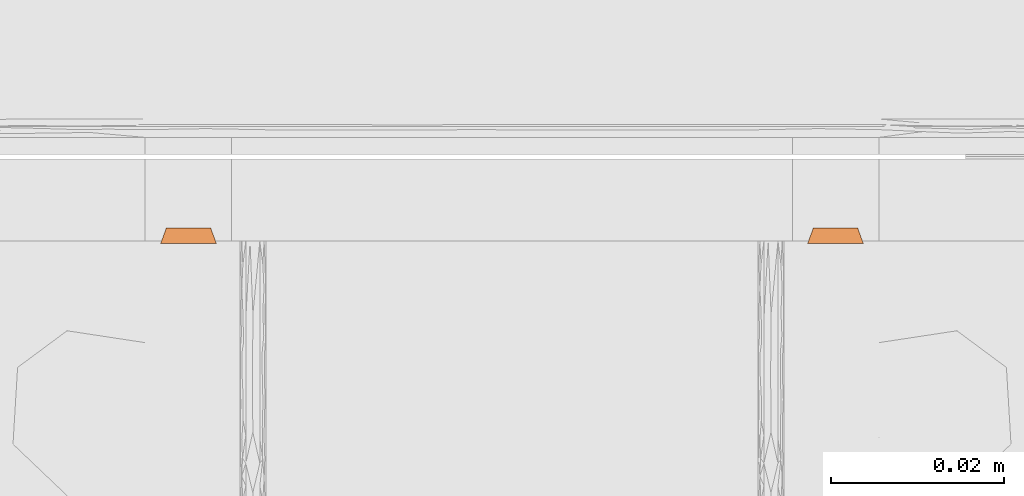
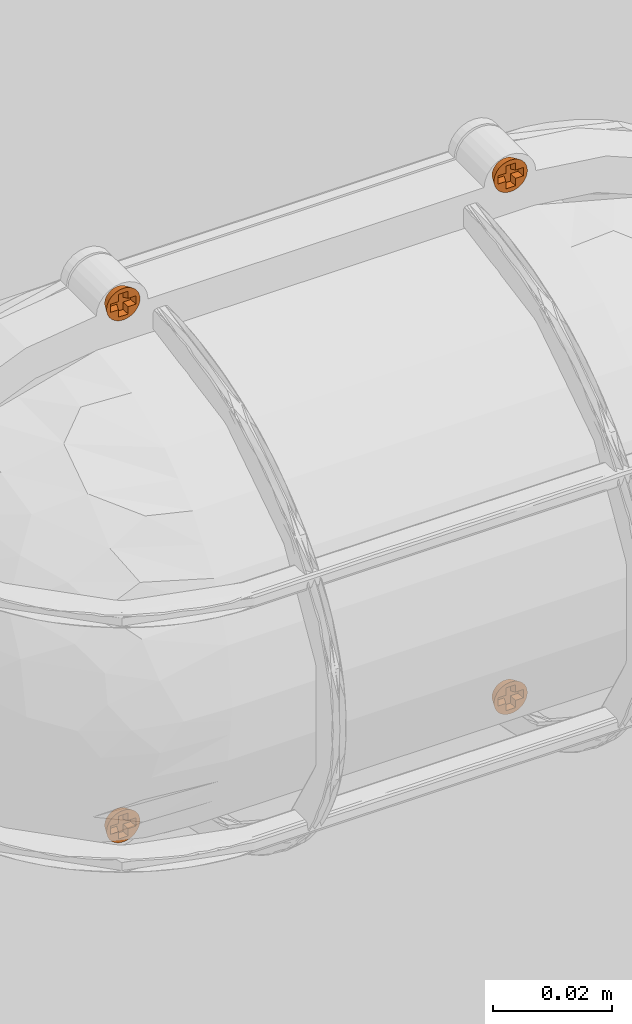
# One storey, part 2 of 2: 4 proxies.
"""IFC2X3 building model written with IfcOpenShell, lengths in metres."""

from ifc_helpers import new_model, si_unit, direction, frame, origin, place, context, subcontext, project, spatial, faceted_brep, source, transform, mapped, material, type_object, type_shapes, element, save


model = new_model("IFC2X3")

# Units and contexts
model_context = context("Model", 3, precision=1e-05, world=origin(), true_north=direction((6.123233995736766e-17, 1.0)))
body_context = subcontext(model_context, "Body", "Model", "MODEL_VIEW")
ifc_project = project(units=[si_unit("LENGTHUNIT", "METRE"), si_unit("AREAUNIT", "SQUARE_METRE")], contexts=[model_context])

# Site, building, storey
site_placement = place(None, origin())
site = spatial("IfcSite", under=ifc_project, at=site_placement, Name="Default", CompositionType="ELEMENT")
building_placement = place(site_placement, origin())
building = spatial("IfcBuilding", under=site, at=building_placement, CompositionType="ELEMENT")
storey_placement = place(building_placement, origin())
storey = spatial("IfcBuildingStorey", under=building, at=storey_placement, Name="Level 1", CompositionType="ELEMENT", Elevation=0.0)

# Proxies
ifc_material = material(Name="Raw Brass")
building_element_proxy_type_1 = type_object("IfcBuildingElementProxyType", Name="Screw:Screw", PredefinedType="NOTDEFINED", material=ifc_material)
shared_shape_1 = source(origin(), body_context, "Body", "Brep", [
    faceted_brep([(-0.003171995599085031, 0.0006309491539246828, 0.000316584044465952), (-0.0024394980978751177, 0.0008394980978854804, 0.0003165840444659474), (-0.0029879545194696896, 0.0012376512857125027, 0.0003165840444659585), (-0.0024394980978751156, 0.0, 0.0003165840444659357), (-0.0032341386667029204, 0.0, 0.00031658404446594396), (-0.0031719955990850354, -0.0006309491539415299, 0.00031658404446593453), (-0.0024394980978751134, -0.0008394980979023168, 0.0003165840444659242), (-0.002987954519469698, -0.00123765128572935, 0.00031658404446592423), (-0.0026890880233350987, -0.0017967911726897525, 0.00031658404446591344), (-0.0022868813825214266, -0.0022868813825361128, 0.00031658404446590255), (-0.000939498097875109, -0.0008394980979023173, 0.0003165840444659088), (-0.0009394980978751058, -0.0023394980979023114, 0.000316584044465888), (-0.0017967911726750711, -0.002689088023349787, 0.000316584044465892), (-0.001237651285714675, -0.0029879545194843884, 0.00031658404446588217), (-0.0006309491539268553, -0.003171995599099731, 0.00031658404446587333), (0.0, -0.0032341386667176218, 0.000316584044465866), (0.0009394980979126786, -0.002339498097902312, 0.0003165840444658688), (0.0006309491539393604, -0.003171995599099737, 0.0003165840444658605), (0.0012376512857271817, -0.0029879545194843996, 0.00031658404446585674), (0.001796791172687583, -0.0026890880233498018, 0.00031658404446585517), (0.0022868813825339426, -0.0022868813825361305, 0.0003165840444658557), (0.0009394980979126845, -0.0008394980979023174, 0.00031658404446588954), (0.0024415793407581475, -0.0008394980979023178, 0.00031658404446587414), (0.0026890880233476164, -0.0017967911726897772, 0.00031658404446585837), (0.002987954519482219, -0.0012376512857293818, 0.00031658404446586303), (0.0031719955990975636, -0.0006309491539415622, 0.00031658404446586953), (0.0024415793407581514, 0.0, 0.0003165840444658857), (0.0032341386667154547, 0.0, 0.00031658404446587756), (0.0031719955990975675, 0.0006309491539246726, 0.000316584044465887), (0.002441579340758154, 0.0008394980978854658, 0.00031658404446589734), (0.002987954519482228, 0.0012376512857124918, 0.0003165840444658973), (0.002689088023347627, 0.0017967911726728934, 0.000316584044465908), (0.002286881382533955, 0.00228688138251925, 0.000316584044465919), (0.0009394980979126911, 0.0008394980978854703, 0.00031658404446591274), (0.000939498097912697, 0.002325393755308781, 0.0003165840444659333), (0.0017967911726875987, 0.002689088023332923, 0.00031658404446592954), (0.0012376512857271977, 0.0029879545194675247, 0.00031658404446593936), (0.0006309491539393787, 0.0031719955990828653, 0.0003165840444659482), (0.0, 0.0032341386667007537, 0.0003165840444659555), (-0.0009394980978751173, 0.0023253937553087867, 0.00031658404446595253), (-0.0006309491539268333, 0.003171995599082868, 0.00031658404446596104), (-0.0012376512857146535, 0.002987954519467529, 0.0003165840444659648), (-0.0017967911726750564, 0.0026890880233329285, 0.00031658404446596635), (-0.0022868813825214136, 0.0022868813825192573, 0.0003165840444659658), (-0.0009394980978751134, 0.0008394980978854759, 0.000316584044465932), (-0.0026890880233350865, 0.0017967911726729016, 0.00031658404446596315), (0.0, 0.0, -0.001499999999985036), (-0.002572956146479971, 0.0, -0.0014999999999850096), (-0.0025235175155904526, 0.0005019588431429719, -0.0014999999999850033), (-0.002377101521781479, 0.0009846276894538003, -0.001499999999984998), (-0.0021393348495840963, 0.0014294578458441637, -0.0014999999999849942), (-0.0018193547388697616, 0.0018193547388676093, -0.0014999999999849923), (-0.0014294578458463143, 0.0021393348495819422, -0.0014999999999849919), (-0.0009846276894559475, 0.002377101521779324, -0.001499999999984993), (-0.0005019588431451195, 0.0025235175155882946, -0.0014999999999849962), (0.0, 0.002572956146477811, -0.0014999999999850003), (0.0005019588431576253, 0.0025235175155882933, -0.0014999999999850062), (0.0009846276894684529, 0.0023771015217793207, -0.0014999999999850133), (0.0014294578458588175, 0.002139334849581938, -0.0014999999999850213), (0.0018193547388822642, 0.0018193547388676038, -0.0014999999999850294), (0.0021393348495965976, 0.001429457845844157, -0.0014999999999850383), (0.00237710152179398, 0.0009846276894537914, -0.001499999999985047), (0.0025235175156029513, 0.0005019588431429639, -0.0014999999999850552), (0.0025729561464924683, 0.0, -0.0014999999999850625), (-0.0025235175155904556, -0.0005019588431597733, -0.001499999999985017), (-0.002377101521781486, -0.0009846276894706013, -0.0014999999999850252), (-0.0021393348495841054, -0.0014294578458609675, -0.001499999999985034), (-0.0018193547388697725, -0.0018193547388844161, -0.0014999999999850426), (-0.001429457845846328, -0.002139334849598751, -0.0014999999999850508), (-0.0009846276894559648, -0.002377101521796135, -0.0014999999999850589), (-0.0005019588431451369, -0.0025235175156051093, -0.001499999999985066), (0.0, -0.002572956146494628, -0.0014999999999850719), (0.002523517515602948, -0.0005019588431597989, -0.0014999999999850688), (0.002377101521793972, -0.0009846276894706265, -0.0014999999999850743), (0.002139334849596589, -0.0014294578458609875, -0.001499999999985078), (0.0018193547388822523, -0.001819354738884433, -0.0014999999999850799), (0.0014294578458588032, -0.0021393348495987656, -0.0014999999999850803), (0.0009846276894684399, -0.002377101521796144, -0.0014999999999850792), (0.0005019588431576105, -0.002523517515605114, -0.001499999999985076), (-0.0005999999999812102, -0.0005000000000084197, -0.0008462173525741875), (-0.0005999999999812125, -0.00200000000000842, -0.0008462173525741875), (0.0006000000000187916, -0.002000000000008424, -0.0008462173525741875), (0.0006000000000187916, -0.0005000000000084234, -0.0008462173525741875), (0.002102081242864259, -0.0005000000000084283, -0.0008462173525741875), (0.002102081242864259, 0.0004999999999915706, -0.0008462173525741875), (0.0006000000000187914, 0.0004999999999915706, -0.0008462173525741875), (0.0006000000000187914, 0.001985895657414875, -0.0008462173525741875), (-0.0005999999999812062, 0.001985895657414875, -0.0008462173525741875), (-0.0005999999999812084, 0.0004999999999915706, -0.0008462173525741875), (-0.0020999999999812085, 0.0004999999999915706, -0.0008462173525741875), (-0.00209999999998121, -0.0005000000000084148, -0.0008462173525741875)], [[[0, 1, 2]], [[3, 1, 0]], [[3, 0, 4]], [[3, 4, 5]], [[6, 3, 5]], [[6, 5, 7]], [[6, 7, 8]], [[9, 6, 8]], [[9, 10, 6]], [[10, 9, 11]], [[11, 9, 12]], [[13, 11, 12]], [[13, 14, 11]], [[11, 14, 15]], [[16, 11, 15]], [[15, 17, 16]], [[16, 17, 18]], [[19, 16, 18]], [[19, 20, 16]], [[16, 20, 21]], [[21, 20, 22]], [[20, 23, 22]], [[22, 23, 24]], [[24, 25, 22]], [[26, 22, 25]], [[27, 26, 25]], [[28, 26, 27]], [[29, 26, 28]], [[29, 28, 30]], [[31, 29, 30]], [[29, 31, 32]], [[32, 33, 29]], [[33, 32, 34]], [[32, 35, 34]], [[36, 34, 35]], [[37, 34, 36]], [[38, 34, 37]], [[38, 39, 34]], [[38, 40, 39]], [[41, 39, 40]], [[39, 41, 42]], [[43, 39, 42]], [[43, 1, 44]], [[43, 45, 1]], [[44, 39, 43]], [[2, 1, 45]], [[46, 47, 48]], [[48, 49, 46]], [[50, 46, 49]], [[51, 46, 50]], [[46, 51, 52]], [[52, 53, 46]], [[53, 54, 46]], [[54, 55, 46]], [[55, 56, 46]], [[57, 46, 56]], [[46, 57, 58]], [[58, 59, 46]], [[60, 46, 59]], [[61, 46, 60]], [[62, 46, 61]], [[62, 63, 46]], [[46, 64, 47]], [[46, 65, 64]], [[65, 46, 66]], [[67, 66, 46]], [[67, 46, 68]], [[69, 68, 46]], [[46, 70, 69]], [[46, 71, 70]], [[46, 63, 72]], [[73, 46, 72]], [[73, 74, 46]], [[75, 46, 74]], [[76, 46, 75]], [[46, 76, 77]], [[77, 78, 46]], [[71, 46, 78]], [[62, 28, 27, 63]], [[28, 62, 61, 30]], [[61, 60, 31, 30]], [[32, 59, 58, 35]], [[58, 57, 36, 35]], [[60, 59, 32, 31]], [[57, 56, 37, 36]], [[37, 56, 55, 38]], [[53, 41, 40, 54]], [[41, 53, 52, 42]], [[52, 51, 43, 42]], [[45, 50, 49, 2]], [[49, 48, 0, 2]], [[51, 50, 45, 43]], [[48, 47, 4, 0]], [[40, 38, 55, 54]], [[64, 5, 4, 47]], [[5, 64, 65, 7]], [[65, 66, 8, 7]], [[9, 67, 68, 12]], [[68, 69, 13, 12]], [[66, 67, 9, 8]], [[69, 70, 14, 13]], [[14, 70, 71, 15]], [[77, 18, 17, 78]], [[18, 77, 76, 19]], [[76, 75, 20, 19]], [[23, 74, 73, 24]], [[73, 72, 25, 24]], [[75, 74, 23, 20]], [[72, 63, 27, 25]], [[17, 15, 71, 78]], [[79, 80, 81, 82, 83, 84, 85, 86, 87, 88, 89, 90]], [[87, 86, 34, 39]], [[44, 88, 87, 39]], [[80, 79, 10, 11]], [[89, 88, 44, 1]], [[33, 85, 84, 29]], [[3, 6, 90, 89, 1]], [[10, 79, 90, 6]], [[83, 82, 21, 22]], [[16, 81, 80, 11]], [[21, 82, 81, 16]], [[86, 85, 33, 34]], [[26, 29, 84, 83, 22]]]),
])
type_shapes(building_element_proxy_type_1, [shared_shape_1])
for number, where, z_axis, x_axis, name in (
    (1, (-5.1288825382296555, 0.08865605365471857, 2.035865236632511), (0.0, -1.0, 0.0), (1.0, 0.0, 0.0), "Screw:Screw"),
    (2, (-5.053961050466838, 0.08865605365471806, 1.9291347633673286), (0.0, -1.0, 0.0), (-1.0, 0.0, 0.0), "Screw:Screw"),
):
    element("IfcBuildingElementProxy", number, at=place(storey_placement, frame(where, z_axis=z_axis, x_axis=x_axis)), inside=storey, type_object=building_element_proxy_type_1, material=ifc_material, Name=name, ObjectType="Screw:Screw", context=body_context, shape_type="MappedRepresentation", body=[
        mapped(shared_shape_1, transform((0.0, 0.0, 0.0), scale=1.0)),
    ])
building_element_proxy_type_2 = type_object("IfcBuildingElementProxyType", Name="Screw:Screw", PredefinedType="NOTDEFINED", material=ifc_material)
shared_shape_2 = source(origin(), body_context, "Body", "Brep", [
    faceted_brep([(-0.0029879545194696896, -0.0012376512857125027, 0.0003165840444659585), (-0.0024394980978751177, -0.0008394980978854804, 0.0003165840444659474), (-0.003171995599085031, -0.0006309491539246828, 0.000316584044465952), (-0.0026890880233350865, -0.0017967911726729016, 0.00031658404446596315), (-0.0022868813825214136, -0.0022868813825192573, 0.0003165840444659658), (-0.0009394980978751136, -0.0008394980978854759, 0.000316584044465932), (-0.0009394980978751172, -0.0023253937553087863, 0.00031658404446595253), (-0.0017967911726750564, -0.0026890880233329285, 0.00031658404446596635), (-0.001237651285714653, -0.0029879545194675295, 0.0003165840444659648), (-0.0006309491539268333, -0.003171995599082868, 0.00031658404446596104), (0.0, -0.0032341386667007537, 0.0003165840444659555), (0.0009394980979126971, -0.002325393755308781, 0.0003165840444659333), (0.0006309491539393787, -0.0031719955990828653, 0.0003165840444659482), (0.0012376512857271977, -0.0029879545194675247, 0.00031658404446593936), (0.0017967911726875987, -0.002689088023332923, 0.00031658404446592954), (0.002286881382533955, -0.00228688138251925, 0.000316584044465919), (0.0009394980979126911, -0.0008394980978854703, 0.00031658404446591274), (0.0024415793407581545, -0.0008394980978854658, 0.00031658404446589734), (0.002689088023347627, -0.0017967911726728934, 0.000316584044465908), (0.002987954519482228, -0.0012376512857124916, 0.0003165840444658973), (0.0031719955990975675, -0.0006309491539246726, 0.000316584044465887), (0.0024415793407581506, 0.0, 0.0003165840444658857), (0.0032341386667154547, 0.0, 0.00031658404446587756), (0.0031719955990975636, 0.0006309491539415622, 0.00031658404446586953), (0.0024415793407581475, 0.0008394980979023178, 0.00031658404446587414), (0.002987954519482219, 0.0012376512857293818, 0.00031658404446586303), (0.0026890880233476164, 0.0017967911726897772, 0.00031658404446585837), (0.0022868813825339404, 0.0022868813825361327, 0.0003165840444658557), (0.0009394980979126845, 0.0008394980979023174, 0.00031658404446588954), (0.0009394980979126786, 0.0023394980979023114, 0.0003165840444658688), (0.0017967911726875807, 0.002689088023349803, 0.00031658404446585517), (0.0012376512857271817, 0.0029879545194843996, 0.00031658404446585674), (0.0006309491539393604, 0.003171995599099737, 0.0003165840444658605), (0.0, 0.0032341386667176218, 0.000316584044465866), (-0.0009394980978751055, 0.0023394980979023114, 0.000316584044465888), (-0.0006309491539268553, 0.003171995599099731, 0.00031658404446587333), (-0.001237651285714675, 0.0029879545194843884, 0.00031658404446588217), (-0.0017967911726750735, 0.002689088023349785, 0.000316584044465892), (-0.0022868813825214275, 0.0022868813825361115, 0.00031658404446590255), (-0.0009394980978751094, 0.0008394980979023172, 0.0003165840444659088), (-0.0024394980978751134, 0.0008394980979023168, 0.0003165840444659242), (-0.0026890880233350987, 0.0017967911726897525, 0.00031658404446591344), (-0.002987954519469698, 0.00123765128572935, 0.00031658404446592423), (-0.0031719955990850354, 0.0006309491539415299, 0.00031658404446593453), (-0.002439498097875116, 0.0, 0.0003165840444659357), (-0.0032341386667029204, 0.0, 0.00031658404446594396), (-0.0025235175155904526, -0.0005019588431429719, -0.0014999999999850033), (-0.002572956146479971, 0.0, -0.0014999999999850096), (0.0, 0.0, -0.001499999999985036), (-0.002377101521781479, -0.0009846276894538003, -0.001499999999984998), (-0.0025235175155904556, 0.0005019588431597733, -0.001499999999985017), (-0.002377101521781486, 0.0009846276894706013, -0.0014999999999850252), (-0.0021393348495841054, 0.0014294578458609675, -0.001499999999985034), (-0.0018193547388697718, 0.0018193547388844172, -0.0014999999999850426), (-0.0014294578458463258, 0.002139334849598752, -0.0014999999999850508), (-0.0009846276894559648, 0.002377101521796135, -0.0014999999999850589), (-0.0005019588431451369, 0.0025235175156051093, -0.001499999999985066), (0.0, 0.002572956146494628, -0.0014999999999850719), (0.0005019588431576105, 0.002523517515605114, -0.001499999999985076), (0.0009846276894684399, 0.002377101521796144, -0.0014999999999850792), (0.001429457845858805, 0.0021393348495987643, -0.0014999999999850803), (0.0018193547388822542, 0.0018193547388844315, -0.0014999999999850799), (0.002139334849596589, 0.0014294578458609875, -0.001499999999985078), (0.002377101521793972, 0.0009846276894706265, -0.0014999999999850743), (0.002523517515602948, 0.0005019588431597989, -0.0014999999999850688), (0.0025729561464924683, 0.0, -0.0014999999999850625), (0.0025235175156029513, -0.0005019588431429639, -0.0014999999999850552), (0.00237710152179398, -0.0009846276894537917, -0.001499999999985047), (0.0021393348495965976, -0.001429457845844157, -0.0014999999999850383), (0.0018193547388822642, -0.0018193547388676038, -0.0014999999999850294), (0.0014294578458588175, -0.002139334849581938, -0.0014999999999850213), (0.0009846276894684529, -0.0023771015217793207, -0.0014999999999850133), (0.0005019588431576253, -0.0025235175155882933, -0.0014999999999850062), (0.0, -0.002572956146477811, -0.0014999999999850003), (-0.0005019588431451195, -0.0025235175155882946, -0.0014999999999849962), (-0.000984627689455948, -0.002377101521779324, -0.001499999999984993), (-0.0014294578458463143, -0.0021393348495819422, -0.0014999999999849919), (-0.0018193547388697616, -0.0018193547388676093, -0.0014999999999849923), (-0.0021393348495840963, -0.0014294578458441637, -0.0014999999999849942), (0.0006000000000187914, 0.0005000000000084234, -0.0008462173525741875), (0.0006000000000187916, 0.002000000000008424, -0.0008462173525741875), (-0.0005999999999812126, 0.00200000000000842, -0.0008462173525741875), (-0.0005999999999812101, 0.0005000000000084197, -0.0008462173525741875), (-0.00209999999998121, 0.0005000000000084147, -0.0008462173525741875), (-0.0020999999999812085, -0.0004999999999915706, -0.0008462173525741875), (-0.0005999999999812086, -0.0004999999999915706, -0.0008462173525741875), (-0.0005999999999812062, -0.001985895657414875, -0.0008462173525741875), (0.0006000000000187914, -0.001985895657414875, -0.0008462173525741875), (0.0006000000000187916, -0.0004999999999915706, -0.0008462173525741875), (0.002102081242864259, -0.0004999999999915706, -0.0008462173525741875), (0.002102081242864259, 0.0005000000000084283, -0.0008462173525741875)], [[[0, 1, 2]], [[3, 1, 0]], [[1, 3, 4]], [[5, 1, 4]], [[4, 6, 5]], [[7, 6, 4]], [[7, 8, 6]], [[9, 6, 8]], [[6, 9, 10]], [[11, 6, 10]], [[12, 11, 10]], [[13, 11, 12]], [[14, 11, 13]], [[11, 14, 15]], [[11, 15, 16]], [[17, 16, 15]], [[15, 18, 17]], [[19, 17, 18]], [[19, 20, 17]], [[20, 21, 17]], [[22, 21, 20]], [[23, 21, 22]], [[23, 24, 21]], [[24, 23, 25]], [[25, 26, 24]], [[24, 26, 27]], [[24, 27, 28]], [[28, 27, 29]], [[29, 27, 30]], [[31, 29, 30]], [[31, 32, 29]], [[29, 32, 33]], [[33, 34, 29]], [[33, 35, 34]], [[34, 35, 36]], [[37, 34, 36]], [[37, 38, 34]], [[34, 38, 39]], [[40, 39, 38]], [[41, 40, 38]], [[41, 42, 40]], [[42, 43, 40]], [[43, 44, 40]], [[43, 45, 44]], [[45, 2, 44]], [[2, 1, 44]], [[46, 47, 48]], [[48, 49, 46]], [[47, 50, 48]], [[50, 51, 48]], [[52, 48, 51]], [[48, 52, 53]], [[54, 48, 53]], [[48, 54, 55]], [[55, 56, 48]], [[56, 57, 48]], [[58, 48, 57]], [[48, 58, 59]], [[59, 60, 48]], [[61, 48, 60]], [[62, 48, 61]], [[48, 62, 63]], [[64, 48, 63]], [[64, 65, 48]], [[48, 65, 66]], [[67, 48, 66]], [[68, 48, 67]], [[69, 48, 68]], [[48, 69, 70]], [[70, 71, 48]], [[72, 48, 71]], [[48, 72, 73]], [[48, 73, 74]], [[48, 74, 75]], [[48, 75, 76]], [[76, 77, 48]], [[78, 48, 77]], [[49, 48, 78]], [[65, 22, 20, 66]], [[67, 66, 20, 19]], [[19, 18, 68, 67]], [[70, 69, 15, 14]], [[14, 13, 71, 70]], [[18, 15, 69, 68]], [[13, 12, 72, 71]], [[10, 73, 72, 12]], [[74, 9, 8, 75]], [[76, 75, 8, 7]], [[7, 4, 77, 76]], [[49, 78, 3, 0]], [[0, 2, 46, 49]], [[4, 3, 78, 77]], [[2, 45, 47, 46]], [[74, 73, 10, 9]], [[47, 45, 43, 50]], [[51, 50, 43, 42]], [[42, 41, 52, 51]], [[54, 53, 38, 37]], [[37, 36, 55, 54]], [[41, 38, 53, 52]], [[36, 35, 56, 55]], [[33, 57, 56, 35]], [[58, 32, 31, 59]], [[60, 59, 31, 30]], [[30, 27, 61, 60]], [[63, 62, 26, 25]], [[25, 23, 64, 63]], [[27, 26, 62, 61]], [[23, 22, 65, 64]], [[58, 57, 33, 32]], [[79, 80, 81, 82, 83, 84, 85, 86, 87, 88, 89, 90]], [[11, 87, 86, 6]], [[6, 86, 85, 5]], [[39, 82, 81, 34]], [[5, 85, 84, 1]], [[17, 89, 88, 16]], [[1, 84, 83, 40, 44]], [[40, 83, 82, 39]], [[28, 79, 90, 24]], [[34, 81, 80, 29]], [[29, 80, 79, 28]], [[16, 88, 87, 11]], [[24, 90, 89, 17, 21]]]),
])
type_shapes(building_element_proxy_type_2, [shared_shape_2])
for number, where, z_axis, x_axis, name in (
    (3, (-5.053961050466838, 0.08865605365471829, 2.035865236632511), (0.0, -1.0, 0.0), (-1.0, 0.0, 0.0), "Screw:Screw"),
    (4, (-5.1288825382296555, 0.08865605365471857, 1.9291347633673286), (0.0, -1.0, 0.0), (1.0, 0.0, 0.0), "Screw:Screw"),
):
    element("IfcBuildingElementProxy", number, at=place(storey_placement, frame(where, z_axis=z_axis, x_axis=x_axis)), inside=storey, type_object=building_element_proxy_type_2, material=ifc_material, Name=name, ObjectType="Screw:Screw", context=body_context, shape_type="MappedRepresentation", body=[
        mapped(shared_shape_2, transform((0.0, 0.0, 0.0), scale=1.0)),
    ])

save(model, "model.ifc")
